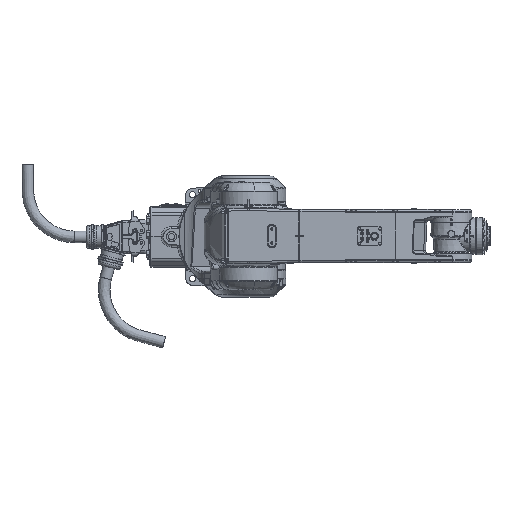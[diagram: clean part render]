
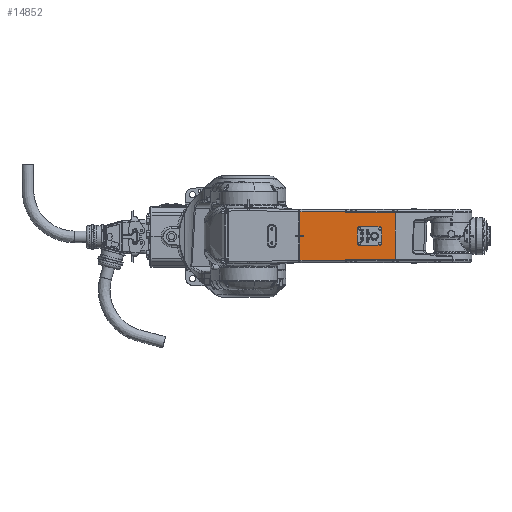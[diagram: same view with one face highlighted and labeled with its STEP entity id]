
A CAD part, top view. The second image highlights one B-rep face of the part: STEP entity #14852.
In plain terms, the highlighted planar face has unit normal (0, 0, 1).
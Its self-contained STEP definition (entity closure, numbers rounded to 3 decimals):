
#6988=LINE('',#119899,#9637);
#7033=LINE('',#120160,#9682);
#7034=LINE('',#120163,#9683);
#7035=LINE('',#120165,#9684);
#7036=LINE('',#120166,#9685);
#7037=LINE('',#120168,#9686);
#7038=LINE('',#120170,#9687);
#7039=LINE('',#120172,#9688);
#7040=LINE('',#120176,#9689);
#7041=LINE('',#120178,#9690);
#7042=LINE('',#120180,#9691);
#7043=LINE('',#120181,#9692);
#7044=LINE('',#120186,#9693);
#7045=LINE('',#120190,#9694);
#7046=LINE('',#120194,#9695);
#9637=VECTOR('',#69605,1.);
#9682=VECTOR('',#69712,1.);
#9683=VECTOR('',#69713,1.);
#9684=VECTOR('',#69714,1.);
#9685=VECTOR('',#69715,1.);
#9686=VECTOR('',#69716,1.);
#9687=VECTOR('',#69717,1.);
#9688=VECTOR('',#69718,1.);
#9689=VECTOR('',#69721,1.);
#9690=VECTOR('',#69722,1.);
#9691=VECTOR('',#69723,1.);
#9692=VECTOR('',#69724,1.);
#9693=VECTOR('',#69727,1.);
#9694=VECTOR('',#69730,1.);
#9695=VECTOR('',#69733,1.);
#12223=FACE_BOUND('',#22843,.T.);
#12224=FACE_BOUND('',#22844,.T.);
#14852=ADVANCED_FACE('',(#12223,#12224),#16764,.T.);
#16764=PLANE('',#58534);
#22843=EDGE_LOOP('',(#34667,#34668,#34669,#34670,#34671,#34672,#34673,#34674,
#34675,#34676,#34677,#34678));
#22844=EDGE_LOOP('',(#34679,#34680,#34681,#34682,#34683,#34684,#34685,#34686));
#34667=ORIENTED_EDGE('',*,*,#49671,.F.);
#34668=ORIENTED_EDGE('',*,*,#49672,.F.);
#34669=ORIENTED_EDGE('',*,*,#49673,.T.);
#34670=ORIENTED_EDGE('',*,*,#49594,.F.);
#34671=ORIENTED_EDGE('',*,*,#49674,.F.);
#34672=ORIENTED_EDGE('',*,*,#49675,.T.);
#34673=ORIENTED_EDGE('',*,*,#49676,.T.);
#34674=ORIENTED_EDGE('',*,*,#49677,.T.);
#34675=ORIENTED_EDGE('',*,*,#49678,.T.);
#34676=ORIENTED_EDGE('',*,*,#49679,.T.);
#34677=ORIENTED_EDGE('',*,*,#49680,.T.);
#34678=ORIENTED_EDGE('',*,*,#49681,.T.);
#34679=ORIENTED_EDGE('',*,*,#49682,.F.);
#34680=ORIENTED_EDGE('',*,*,#49683,.T.);
#34681=ORIENTED_EDGE('',*,*,#49684,.F.);
#34682=ORIENTED_EDGE('',*,*,#49685,.T.);
#34683=ORIENTED_EDGE('',*,*,#49686,.F.);
#34684=ORIENTED_EDGE('',*,*,#49687,.T.);
#34685=ORIENTED_EDGE('',*,*,#49688,.F.);
#34686=ORIENTED_EDGE('',*,*,#49689,.T.);
#42864=VERTEX_POINT('',#119898);
#42865=VERTEX_POINT('',#119900);
#42934=VERTEX_POINT('',#120161);
#42935=VERTEX_POINT('',#120162);
#42936=VERTEX_POINT('',#120164);
#42937=VERTEX_POINT('',#120167);
#42938=VERTEX_POINT('',#120169);
#42939=VERTEX_POINT('',#120171);
#42940=VERTEX_POINT('',#120173);
#42941=VERTEX_POINT('',#120175);
#42942=VERTEX_POINT('',#120177);
#42943=VERTEX_POINT('',#120179);
#42944=VERTEX_POINT('',#120182);
#42945=VERTEX_POINT('',#120183);
#42946=VERTEX_POINT('',#120185);
#42947=VERTEX_POINT('',#120187);
#42948=VERTEX_POINT('',#120189);
#42949=VERTEX_POINT('',#120191);
#42950=VERTEX_POINT('',#120193);
#42951=VERTEX_POINT('',#120195);
#49594=EDGE_CURVE('',#42864,#42865,#6988,.T.);
#49671=EDGE_CURVE('',#42934,#42935,#7033,.T.);
#49672=EDGE_CURVE('',#42936,#42934,#7034,.T.);
#49673=EDGE_CURVE('',#42936,#42865,#7035,.T.);
#49674=EDGE_CURVE('',#42937,#42864,#7036,.T.);
#49675=EDGE_CURVE('',#42937,#42938,#7037,.T.);
#49676=EDGE_CURVE('',#42938,#42939,#7038,.T.);
#49677=EDGE_CURVE('',#42939,#42940,#7039,.T.);
#49678=EDGE_CURVE('',#42940,#42941,#53878,.T.);
#49679=EDGE_CURVE('',#42941,#42942,#7040,.T.);
#49680=EDGE_CURVE('',#42942,#42943,#7041,.T.);
#49681=EDGE_CURVE('',#42943,#42935,#7042,.T.);
#49682=EDGE_CURVE('',#42944,#42945,#7043,.T.);
#49683=EDGE_CURVE('',#42944,#42946,#53879,.T.);
#49684=EDGE_CURVE('',#42947,#42946,#7044,.T.);
#49685=EDGE_CURVE('',#42947,#42948,#53880,.T.);
#49686=EDGE_CURVE('',#42949,#42948,#7045,.T.);
#49687=EDGE_CURVE('',#42949,#42950,#53881,.T.);
#49688=EDGE_CURVE('',#42951,#42950,#7046,.T.);
#49689=EDGE_CURVE('',#42951,#42945,#53882,.T.);
#53878=CIRCLE('',#58529,1.7);
#53879=CIRCLE('',#58530,4.);
#53880=CIRCLE('',#58531,4.);
#53881=CIRCLE('',#58532,4.);
#53882=CIRCLE('',#58533,4.);
#58529=AXIS2_PLACEMENT_3D('',#120174,#69719,#69720);
#58530=AXIS2_PLACEMENT_3D('',#120184,#69725,#69726);
#58531=AXIS2_PLACEMENT_3D('',#120188,#69728,#69729);
#58532=AXIS2_PLACEMENT_3D('',#120192,#69731,#69732);
#58533=AXIS2_PLACEMENT_3D('',#120196,#69734,#69735);
#58534=AXIS2_PLACEMENT_3D('',#120197,#69736,#69737);
#69605=DIRECTION('',(1.,0.,0.));
#69712=DIRECTION('',(0.,-1.,0.));
#69713=DIRECTION('',(-1.,0.,0.));
#69714=DIRECTION('',(0.,1.,0.));
#69715=DIRECTION('',(0.,-1.,0.));
#69716=DIRECTION('',(-1.,0.,0.));
#69717=DIRECTION('',(0.,-1.,0.));
#69718=DIRECTION('',(1.,0.,0.));
#69719=DIRECTION('',(0.,0.,-1.));
#69720=DIRECTION('',(1.,0.,0.));
#69721=DIRECTION('',(-1.,0.,0.));
#69722=DIRECTION('',(0.,-1.,0.));
#69723=DIRECTION('',(1.,0.,0.));
#69724=DIRECTION('',(1.,0.,0.));
#69725=DIRECTION('',(0.,0.,-1.));
#69726=DIRECTION('',(1.,0.,0.));
#69727=DIRECTION('',(0.,-1.,0.));
#69728=DIRECTION('',(0.,0.,-1.));
#69729=DIRECTION('',(1.,0.,0.));
#69730=DIRECTION('',(-1.,0.,0.));
#69731=DIRECTION('',(0.,0.,-1.));
#69732=DIRECTION('',(1.,0.,0.));
#69733=DIRECTION('',(0.,1.,0.));
#69734=DIRECTION('',(0.,0.,-1.));
#69735=DIRECTION('',(1.,0.,0.));
#69736=DIRECTION('',(0.,0.,1.));
#69737=DIRECTION('',(1.,0.,0.));
#119898=CARTESIAN_POINT('',(-226.5,50.,53.));
#119899=CARTESIAN_POINT('',(-225.5,50.,53.));
#119900=CARTESIAN_POINT('',(-120.185,50.,53.));
#120160=CARTESIAN_POINT('',(-226.5,-50.,53.));
#120161=CARTESIAN_POINT('',(-226.5,-50.,53.));
#120162=CARTESIAN_POINT('',(-226.5,-52.,53.));
#120163=CARTESIAN_POINT('',(-225.5,-50.,53.));
#120164=CARTESIAN_POINT('',(-120.185,-50.,53.));
#120165=CARTESIAN_POINT('',(-120.185,-57.,53.));
#120166=CARTESIAN_POINT('',(-226.5,57.,53.));
#120167=CARTESIAN_POINT('',(-226.5,52.,53.));
#120168=CARTESIAN_POINT('',(-225.5,52.,53.));
#120169=CARTESIAN_POINT('',(-324.5,52.,53.));
#120170=CARTESIAN_POINT('',(-324.5,-57.,53.));
#120171=CARTESIAN_POINT('',(-324.5,1.7,53.));
#120172=CARTESIAN_POINT('',(-225.5,1.7,53.));
#120173=CARTESIAN_POINT('',(-319.5,1.7,53.));
#120174=CARTESIAN_POINT('',(-319.5,0.,53.));
#120175=CARTESIAN_POINT('',(-319.5,-1.7,53.));
#120176=CARTESIAN_POINT('',(-324.5,-1.7,53.));
#120177=CARTESIAN_POINT('',(-324.5,-1.7,53.));
#120178=CARTESIAN_POINT('',(-324.5,-57.,53.));
#120179=CARTESIAN_POINT('',(-324.5,-52.,53.));
#120180=CARTESIAN_POINT('',(-226.5,-52.,53.));
#120181=CARTESIAN_POINT('',(-225.5,-19.75,53.));
#120182=CARTESIAN_POINT('',(-197.25,-19.75,53.));
#120183=CARTESIAN_POINT('',(-152.75,-19.75,53.));
#120184=CARTESIAN_POINT('',(-197.25,-15.75,53.));
#120185=CARTESIAN_POINT('',(-201.25,-15.75,53.));
#120186=CARTESIAN_POINT('',(-201.25,-57.,53.));
#120187=CARTESIAN_POINT('',(-201.25,15.75,53.));
#120188=CARTESIAN_POINT('',(-197.25,15.75,53.));
#120189=CARTESIAN_POINT('',(-197.25,19.75,53.));
#120190=CARTESIAN_POINT('',(-225.5,19.75,53.));
#120191=CARTESIAN_POINT('',(-152.75,19.75,53.));
#120192=CARTESIAN_POINT('',(-152.75,15.75,53.));
#120193=CARTESIAN_POINT('',(-148.75,15.75,53.));
#120194=CARTESIAN_POINT('',(-148.75,-57.,53.));
#120195=CARTESIAN_POINT('',(-148.75,-15.75,53.));
#120196=CARTESIAN_POINT('',(-152.75,-15.75,53.));
#120197=CARTESIAN_POINT('',(-225.5,-57.,53.));
